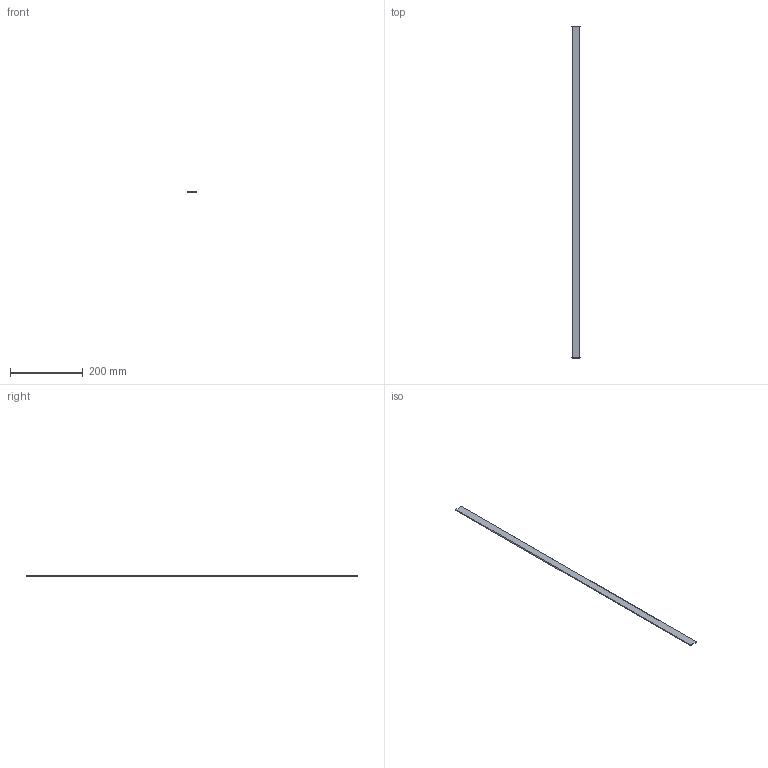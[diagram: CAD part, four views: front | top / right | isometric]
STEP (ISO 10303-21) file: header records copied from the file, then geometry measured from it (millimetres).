
FILE_DESCRIPTION(/* description */ (''),/* implementation_level */ '2;1');
FILE_NAME(/* name */ 'C:/Users/drich/Desktop/BM34 v1.step',/* time_stamp */ '2020-01-04T15:39:17-06:00',/* author */ (''),/* organization */ (''),/* preprocessor_version */ 'ST-DEVELOPER v18',/* originating_system */ 'Autodesk Translation Framework v8.12.0.6',/* authorisation */ '');
FILE_SCHEMA (('AUTOMOTIVE_DESIGN { 1 0 10303 214 3 1 1 }'));
Length unit declared in the file: inch
Products named in the file (1): BM34
Bounding box: 23.65 x 914.4 x 2.36 mm (x, y, z)
Volume: 50038.2 mm3; surface area: 45868.1 mm2
Topology: 1 solids, 1 shells, 6 faces, 12 edges, 8 vertices
Faces by surface type: plane 4, cylinder 2
Entity records: 202 total; most frequent: DIRECTION 30, CARTESIAN_POINT 27, ORIENTED_EDGE 24, EDGE_CURVE 12, AXIS2_PLACEMENT_3D 11, LINE 8, VECTOR 8, VERTEX_POINT 8
